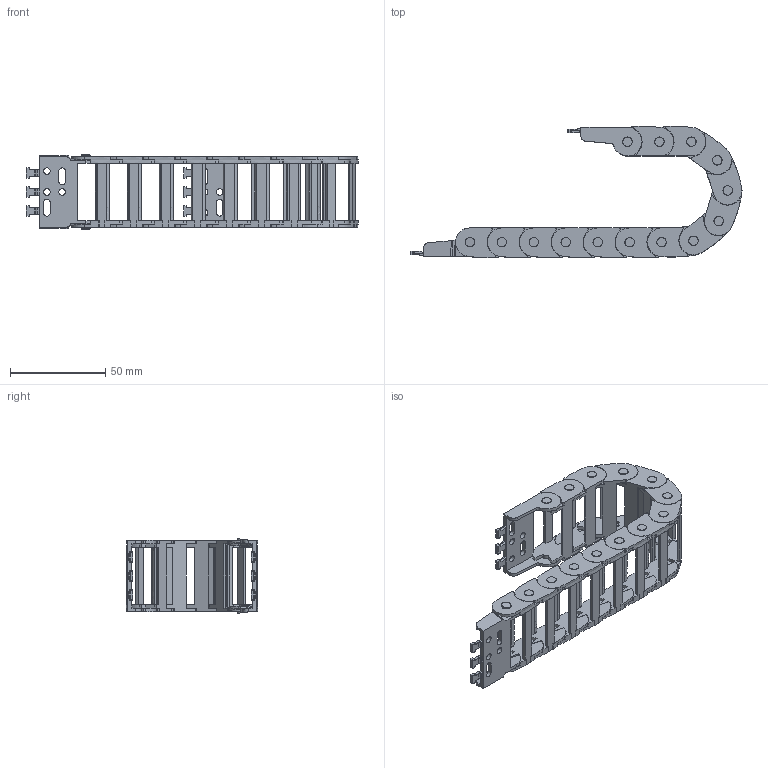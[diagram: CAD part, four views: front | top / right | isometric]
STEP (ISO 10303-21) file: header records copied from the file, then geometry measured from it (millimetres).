
FILE_DESCRIPTION((''),'2;1');
FILE_NAME('WK-10X30-R28_ASM','2022-05-04T11:34:47',('admin'),(''),'CREO PARAMETRIC BY PTC INC, 2021164','CREO PARAMETRIC BY PTC INC, 2021164','');
FILE_SCHEMA(('CONFIG_CONTROL_DESIGN','GEOMETRIC_VALIDATION_PROPERTIES_MIM'));
Length unit declared in the file: millimetre
Products named in the file (4): 10X30; 10-30-LTT-A; 10-30-LTT-B; WK-10X30-R28_ASM
Assembly tree (15 placements, depth 2):
  WK-10X30-R28_ASM
    10X30  x13
    10-30-LTT-A
    10-30-LTT-B
Bounding box: 174.59 x 69.02 x 39.14 mm (x, y, z)
Volume: 35721.4 mm3; surface area: 46781.4 mm2
Topology: 15 solids, 15 shells, 2858 faces, 8154 edges, 5419 vertices
Faces by surface type: plane 1406, extrusion 923, cylinder 441, cone 88
Entity records: 26774 total; most frequent: CARTESIAN_POINT 4758, ORIENTED_EDGE 2940, DIRECTION 2435, PRESENTATION_STYLE_ASSIGNMENT 2050, STYLED_ITEM 2050, CURVE_STYLE 1541, EDGE_CURVE 1470, VECTOR 1027
